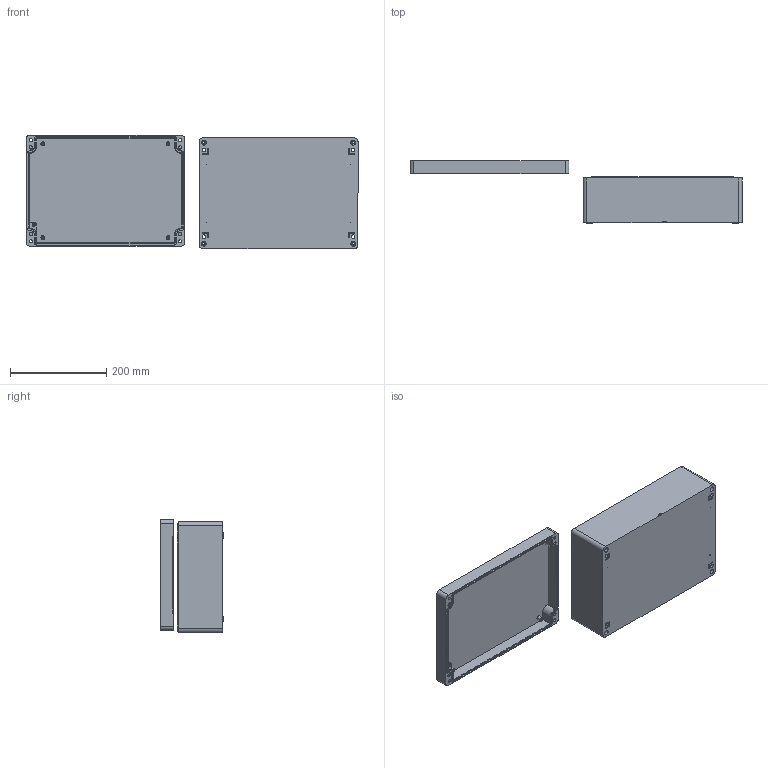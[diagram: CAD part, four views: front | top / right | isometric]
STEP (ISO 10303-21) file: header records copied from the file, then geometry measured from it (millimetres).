
FILE_DESCRIPTION (( 'STEP AP203' ), '1' );
FILE_NAME ('ZX-AL-233312_装配体.STEP', '2022-01-24T09:25:45', ( '微软用户' ), ( '微软中国' ), 'SwSTEP 2.0', 'SolidWorks 2020', '' );
FILE_SCHEMA (( 'CONFIG_CONTROL_DESIGN' ));
Length unit declared in the file: millimetre
Products named in the file (3): ZX-AL-233312_蚾饜极; ZX-AL-233312_狟; ZX-AL-233312_奻
Assembly tree (2 placements, depth 2):
  ZX-AL-233312_蚾饜极
    ZX-AL-233312_狟
    ZX-AL-233312_奻
Bounding box: 689.43 x 130.02 x 235.38 mm (x, y, z)
Volume: 888314.1 mm3; surface area: 591799.4 mm2
Topology: 1 solids, 2 shells, 723 faces, 1930 edges, 1241 vertices
Faces by surface type: plane 346, cylinder 188, bspline 121, cone 68
Entity records: 28155 total; most frequent: CARTESIAN_POINT 10522, ORIENTED_EDGE 3800, DIRECTION 3210, EDGE_CURVE 1900, VECTOR 1264, LINE 1264, VERTEX_POINT 1241, AXIS2_PLACEMENT_3D 973
